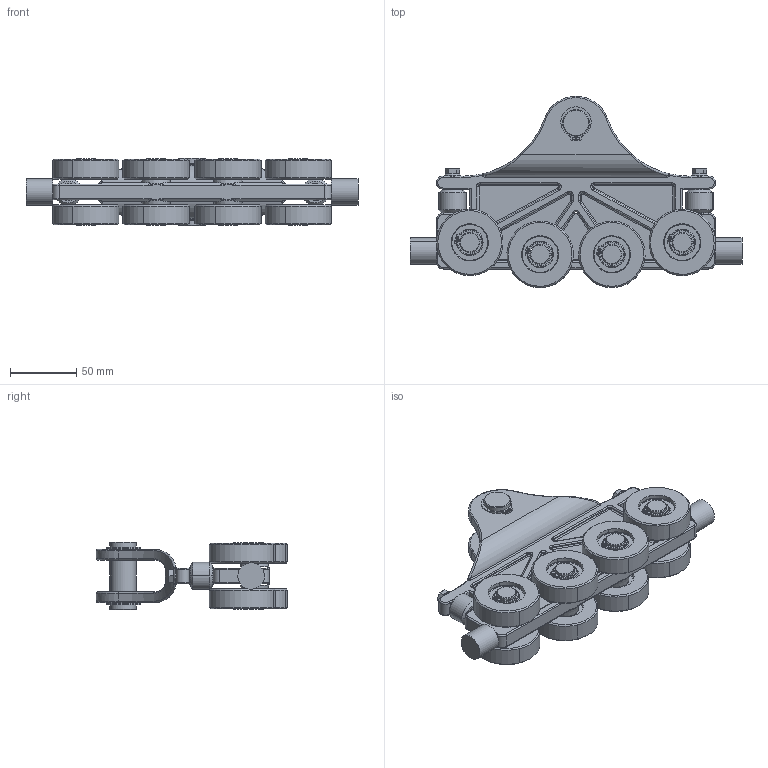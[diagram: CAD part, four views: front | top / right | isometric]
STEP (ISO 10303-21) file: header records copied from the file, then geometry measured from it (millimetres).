
FILE_DESCRIPTION (( 'STEP AP203' ), '1' );
FILE_NAME ('900.200.103.STEP', '2017-10-09T14:18:58', ( 'Localadmin' ), ( 'Microsoft' ), 'SwSTEP 2.0', 'SolidWorks 2016', '' );
FILE_SCHEMA (( 'CONFIG_CONTROL_DESIGN' ));
Length unit declared in the file: millimetre
Products named in the file (1): 900.200.103
Bounding box: 250 x 143.97 x 51 mm (x, y, z)
Surface area: 117161.3 mm2 (no closed solid volume)
Topology: 0 solids, 62 shells, 881 faces, 2334 edges, 1509 vertices
Faces by surface type: cylinder 357, plane 192, cone 152, bspline 126, torus 54
Entity records: 32575 total; most frequent: CARTESIAN_POINT 11401, DIRECTION 4663, ORIENTED_EDGE 3972, EDGE_CURVE 2322, AXIS2_PLACEMENT_3D 1947, VERTEX_POINT 1509, CIRCLE 1191, EDGE_LOOP 989
